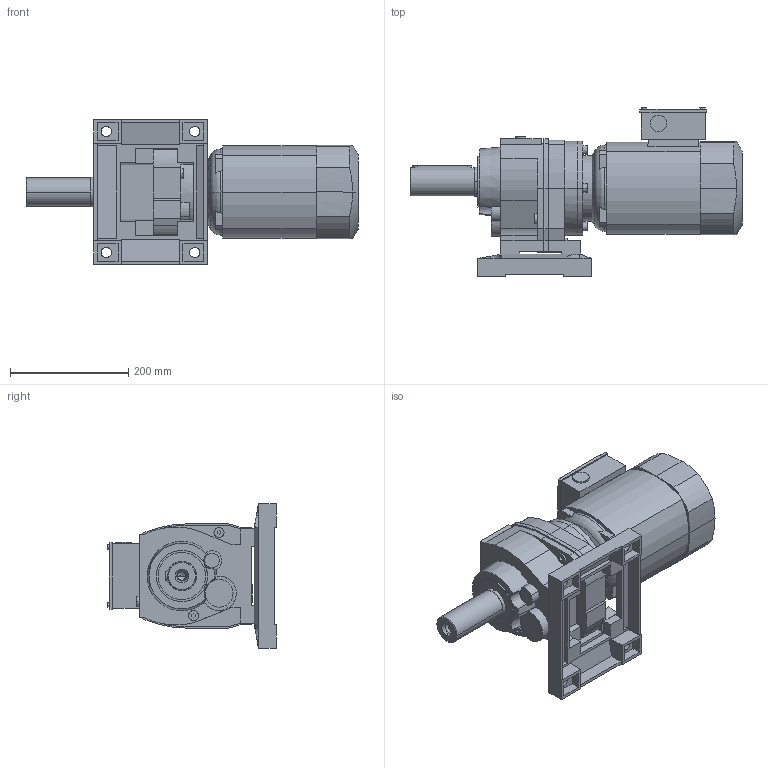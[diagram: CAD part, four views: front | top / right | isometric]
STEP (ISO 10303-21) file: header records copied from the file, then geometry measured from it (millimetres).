
FILE_DESCRIPTION(('STEP AP214'),'1');
FILE_NAME('STEP-File.stp','2018-01-01T00:00:00',(' '),('KEB'),' ','KEB-DRIVE',' ');
FILE_SCHEMA(('AUTOMOTIVE_DESIGN { 1 0 10303 214 1 1 1 1 }'));
Length unit declared in the file: millimetre
Products named in the file (8): z3a; w3_we_48x110; cm3; dm90l_kkn; kk08; PLUG_M25; ndm90; ZG33 DM80GD4§CAD13
Assembly tree (7 placements, depth 2):
  ZG33 DM80GD4§CAD13
    z3a
    w3_we_48x110
    cm3
    dm90l_kkn
    kk08
    PLUG_M25
    ndm90
Bounding box: 562.5 x 285.5 x 245 mm (x, y, z)
Volume: 10721849.2 mm3; surface area: 671526.1 mm2
Topology: 7 solids, 8 shells, 581 faces, 1674 edges, 1240 vertices
Faces by surface type: plane 419, cylinder 99, cone 57, torus 4, bspline 2
Entity records: 21308 total; most frequent: CARTESIAN_POINT 6326, ORIENTED_EDGE 3344, DIRECTION 2487, EDGE_CURVE 1672, VECTOR 1279, LINE 1279, VERTEX_POINT 1240, EDGE_LOOP 730
